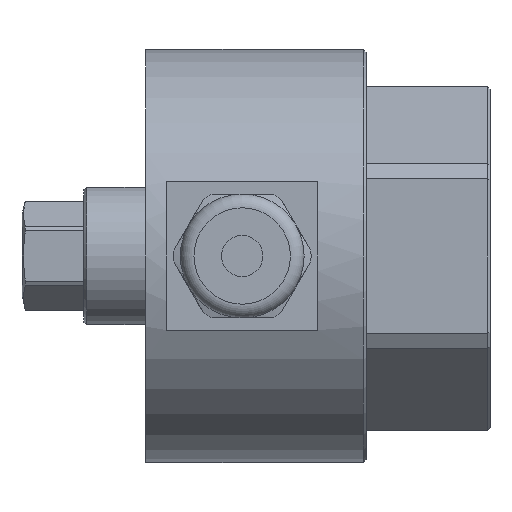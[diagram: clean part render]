
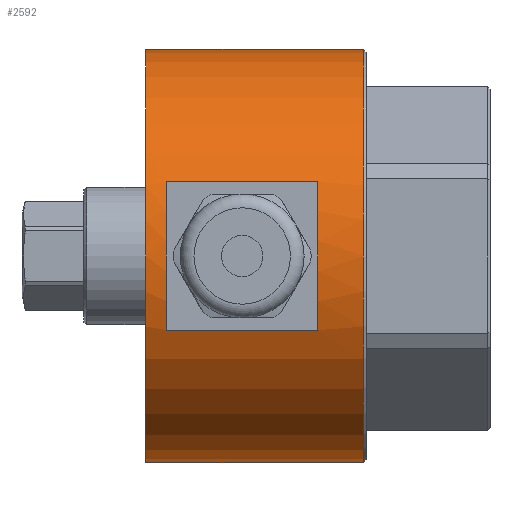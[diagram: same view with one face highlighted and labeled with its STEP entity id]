
A CAD part, left-side view. The second image highlights one B-rep face of the part: STEP entity #2592.
In plain terms, the highlighted cylindrical face has radius 15 mm (diameter 30 mm), a full revolution.
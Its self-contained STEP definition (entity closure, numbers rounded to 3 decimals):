
#115=CYLINDRICAL_SURFACE('',#2875,15.);
#240=LINE('',#4268,#437);
#242=LINE('',#4271,#439);
#269=LINE('',#4399,#466);
#437=VECTOR('',#3379,10.);
#439=VECTOR('',#3381,10.);
#466=VECTOR('',#3518,15.);
#663=FACE_BOUND('',#933,.T.);
#776=FACE_OUTER_BOUND('',#932,.T.);
#932=EDGE_LOOP('',(#2264,#2265,#2266,#2267,#2268,#2269));
#933=EDGE_LOOP('',(#2270,#2271,#2272,#2273));
#1053=CIRCLE('',#2819,15.);
#1054=CIRCLE('',#2822,15.);
#1057=CIRCLE('',#2828,15.);
#1058=CIRCLE('',#2829,15.);
#1085=CIRCLE('',#2872,15.);
#1086=CIRCLE('',#2873,15.);
#1247=VERTEX_POINT('',#4262);
#1248=VERTEX_POINT('',#4263);
#1249=VERTEX_POINT('',#4267);
#1250=VERTEX_POINT('',#4269);
#1254=VERTEX_POINT('',#4284);
#1255=VERTEX_POINT('',#4285);
#1294=VERTEX_POINT('',#4391);
#1295=VERTEX_POINT('',#4392);
#1564=EDGE_CURVE('',#1247,#1248,#1053,.T.);
#1566=EDGE_CURVE('',#1249,#1247,#240,.T.);
#1568=EDGE_CURVE('',#1248,#1250,#242,.T.);
#1569=EDGE_CURVE('',#1250,#1249,#1054,.T.);
#1574=EDGE_CURVE('',#1254,#1255,#1057,.T.);
#1575=EDGE_CURVE('',#1255,#1254,#1058,.T.);
#1625=EDGE_CURVE('',#1294,#1295,#1085,.T.);
#1626=EDGE_CURVE('',#1295,#1294,#1086,.T.);
#1629=EDGE_CURVE('',#1295,#1255,#269,.T.);
#2264=ORIENTED_EDGE('',*,*,#1625,.F.);
#2265=ORIENTED_EDGE('',*,*,#1626,.F.);
#2266=ORIENTED_EDGE('',*,*,#1629,.T.);
#2267=ORIENTED_EDGE('',*,*,#1574,.F.);
#2268=ORIENTED_EDGE('',*,*,#1575,.F.);
#2269=ORIENTED_EDGE('',*,*,#1629,.F.);
#2270=ORIENTED_EDGE('',*,*,#1568,.T.);
#2271=ORIENTED_EDGE('',*,*,#1569,.T.);
#2272=ORIENTED_EDGE('',*,*,#1566,.T.);
#2273=ORIENTED_EDGE('',*,*,#1564,.T.);
#2592=ADVANCED_FACE('',(#776,#663),#115,.T.);
#2819=AXIS2_PLACEMENT_3D('',#4264,#3374,#3375);
#2822=AXIS2_PLACEMENT_3D('',#4273,#3384,#3385);
#2828=AXIS2_PLACEMENT_3D('',#4286,#3398,#3399);
#2829=AXIS2_PLACEMENT_3D('',#4287,#3400,#3401);
#2872=AXIS2_PLACEMENT_3D('',#4393,#3509,#3510);
#2873=AXIS2_PLACEMENT_3D('',#4394,#3511,#3512);
#2875=AXIS2_PLACEMENT_3D('',#4398,#3516,#3517);
#3374=DIRECTION('center_axis',(0.,-1.,0.));
#3375=DIRECTION('ref_axis',(0.,0.,1.));
#3379=DIRECTION('',(0.,-1.,0.));
#3381=DIRECTION('',(0.,1.,0.));
#3384=DIRECTION('center_axis',(0.,1.,0.));
#3385=DIRECTION('ref_axis',(0.,0.,1.));
#3398=DIRECTION('center_axis',(0.,1.,0.));
#3399=DIRECTION('ref_axis',(1.,0.,0.));
#3400=DIRECTION('center_axis',(0.,1.,0.));
#3401=DIRECTION('ref_axis',(1.,0.,0.));
#3509=DIRECTION('center_axis',(0.,-1.,0.));
#3510=DIRECTION('ref_axis',(0.,0.,-1.));
#3511=DIRECTION('center_axis',(0.,-1.,0.));
#3512=DIRECTION('ref_axis',(0.,0.,-1.));
#3516=DIRECTION('center_axis',(0.,-1.,0.));
#3517=DIRECTION('ref_axis',(0.,0.,
1.));
#3518=DIRECTION('',(0.,1.,0.));
#4262=CARTESIAN_POINT('',(-14.,-13.5,5.385));
#4263=CARTESIAN_POINT('',(-14.,-13.5,-5.385));
#4264=CARTESIAN_POINT('Origin',(0.,-13.5,0.));
#4267=CARTESIAN_POINT('',(-14.,-2.5,5.385));
#4268=CARTESIAN_POINT('',(-14.,-8.,5.385));
#4269=CARTESIAN_POINT('',(-14.,-2.5,-5.385));
#4271=CARTESIAN_POINT('',(-14.,-8.,-5.385));
#4273=CARTESIAN_POINT('Origin',(0.,-2.5,0.));
#4284=CARTESIAN_POINT('',(0.,-1.,15.));
#4285=CARTESIAN_POINT('',(0.,-1.,-15.));
#4286=CARTESIAN_POINT('Origin',(0.,-1.,0.));
#4287=CARTESIAN_POINT('Origin',(0.,-1.,0.));
#4391=CARTESIAN_POINT('',(0.,-16.8,15.));
#4392=CARTESIAN_POINT('',(0.,-16.8,-15.));
#4393=CARTESIAN_POINT('Origin',(0.,-16.8,0.));
#4394=CARTESIAN_POINT('Origin',(0.,-16.8,0.));
#4398=CARTESIAN_POINT('Origin',(0.,-16.,0.));
#4399=CARTESIAN_POINT('',(0.,-16.,-15.));
